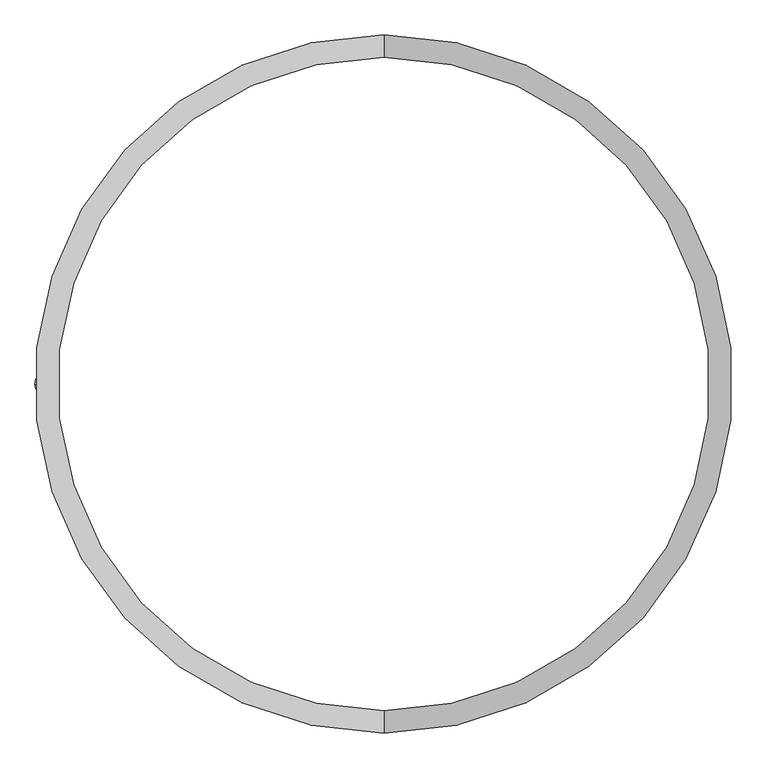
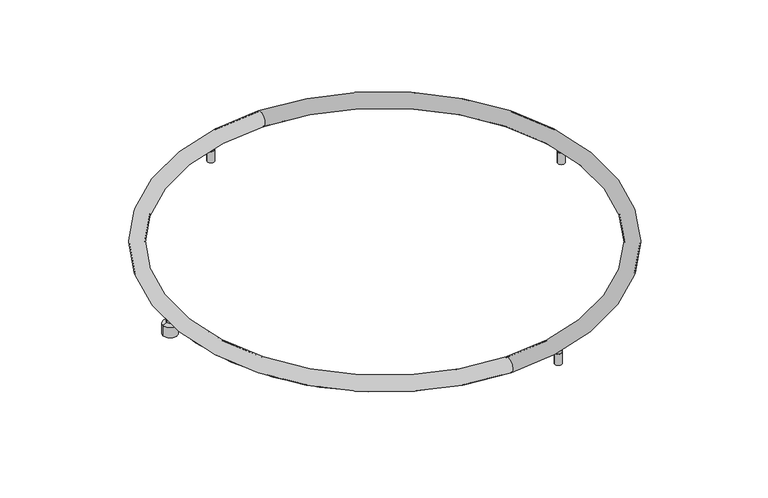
"""IFC4 building model written with IfcOpenShell, lengths in millimetres: light fixture geometry, ARTEMIDE-AoL-StandAlone-Circular_WallCeiling : StandALone_SemiRecessed_Circular-1550mm 10740lm 3000K."""

from ifc_helpers import new_model, si_unit, point, frame, origin, place, context, project, spatial, polyline, circle_curve, ellipse_curve, trimmed, source, transform, mapped, element, save
from ifc_brep_helpers import plane_surface, cylinder_surface, revolved_surface, advanced_brep


def light_fixture_1c0528ef(model_context):
    return source(origin(), model_context, "Body", "AdvancedBrep", [
        advanced_brep(
        [(0.0, 0.0, 54.0), (12.0, 0.0, 54.0), (-12.0, 0.0, 54.0), (-25.0, 0.0, 0.0), (25.0, 0.0, 0.0), (0.0, 0.0, 0.0), (-25.0, 0.0, 37.5120373), (25.0, 0.0, 37.5120373), (-12.0, 0.0, 44.4453706), (12.0, 0.0, 44.4453706)],
        [
            (0, 1),
            (1, 2, circle_curve(frame((0.0, 0.0, 54.0), z_axis=(0.0, 0.0, 1.0), x_axis=(1.0, 0.0, 0.0)), 12.0)),
            (2, 0),
            (2, 1, circle_curve(frame((0.0, 0.0, 54.0), z_axis=(0.0, 0.0, 1.0), x_axis=(1.0, 0.0, 0.0)), 12.0)),
            (3, 4, circle_curve(frame((0.0, 0.0, 0.0), z_axis=(0.0, 0.0, -1.0), x_axis=(1.0, 0.0, 0.0)), 25.0)),
            (4, 5),
            (5, 3),
            (4, 3, circle_curve(frame((0.0, 0.0, 0.0), z_axis=(0.0, 0.0, -1.0), x_axis=(1.0, 0.0, 0.0)), 25.0)),
            (6, 7, circle_curve(frame((0.0, 0.0, 37.5120373), z_axis=(0.0, 0.0, -1.0), x_axis=(1.0, 0.0, 0.0)), 25.0)),
            (7, 4),
            (3, 6),
            (7, 6, circle_curve(frame((0.0, 0.0, 37.5120373), z_axis=(0.0, 0.0, -1.0), x_axis=(1.0, 0.0, 0.0)), 25.0)),
            (8, 9, circle_curve(frame((0.0, 0.0, 44.4453706), z_axis=(0.0, 0.0, -1.0), x_axis=(1.0, 0.0, 0.0)), 12.0)),
            (9, 7),
            (6, 8),
            (9, 8, circle_curve(frame((0.0, 0.0, 44.4453706), z_axis=(0.0, 0.0, -1.0), x_axis=(1.0, 0.0, 0.0)), 12.0)),
            (1, 9),
            (8, 2),
        ],
        [
            plane_surface(frame((0.0, 0.0, 54.0), z_axis=(0.0, 0.0, 1.0), x_axis=(1.0, 0.0, 0.0))),
            plane_surface(frame((0.0, 0.0, 0.0), z_axis=(0.0, 0.0, -1.0), x_axis=(1.0, 0.0, 0.0))),
            cylinder_surface(frame((0.0, 0.0, -58.83358), z_axis=(0.0, 0.0, 1.0), x_axis=(1.0, 0.0, 0.0)), 25.0),
            revolved_surface(polyline([(25.0, 0.0, 37.5120373), (12.0, 0.0, 44.4453706)]), (0.0, 0.0, -58.83358), (0.0, 0.0, 1.0)),
            cylinder_surface(frame((0.0, 0.0, -58.83358), z_axis=(0.0, 0.0, 1.0), x_axis=(1.0, 0.0, 0.0)), 12.0),
        ],
        [
            (0, [[1, 2, 3]]),
            (0, [[-3, 4, -1]]),
            (1, [[5, 6, 7]]),
            (1, [[8, -7, -6]]),
            (2, [[9, 10, -5, 11]]),
            (2, [[12, -11, -8, -10]]),
            (3, [[13, 14, -9, 15]]),
            (3, [[16, -15, -12, -14]]),
            (4, [[-2, 17, -13, 18]]),
            (4, [[-4, -18, -16, -17]]),
        ],
    ),
        advanced_brep(
        [(1481.5, 188.0, 0.0), (1470.5, 188.0, 0.0), (1476.0, 188.0, 0.0), (1481.5, 188.0, 1.0), (1470.5, 188.0, 1.0), (1488.0, 188.0, 1.0), (1464.0, 188.0, 1.0), (1488.0, 188.0, 42.5), (1464.0, 188.0, 42.5), (1485.5243756, 188.0, 42.5), (1466.4756244, 188.0, 42.5), (1485.5243756, 188.0, 43.4995055), (1466.4756244, 188.0, 43.4995055), (1488.0, 188.0, 43.4995055), (1464.0, 188.0, 43.4995055), (1488.0, 188.0, 52.9579379), (1464.0, 188.0, 52.9579379), (1476.0, 188.0, 52.9579379)],
        [
            (0, 1, circle_curve(frame((1476.0, 188.0, 0.0), z_axis=(0.0, 0.0, -1.0), x_axis=(-1.0, 0.0, 0.0)), 5.5)),
            (1, 2),
            (2, 0),
            (1, 0, circle_curve(frame((1476.0, 188.0, 0.0), z_axis=(0.0, 0.0, -1.0), x_axis=(-1.0, 0.0, 0.0)), 5.5)),
            (3, 4, circle_curve(frame((1476.0, 188.0, 1.0), z_axis=(0.0, 0.0, -1.0), x_axis=(-1.0, 0.0, 0.0)), 5.5)),
            (4, 1),
            (0, 3),
            (4, 3, circle_curve(frame((1476.0, 188.0, 1.0), z_axis=(0.0, 0.0, -1.0), x_axis=(-1.0, 0.0, 0.0)), 5.5)),
            (5, 6, circle_curve(frame((1476.0, 188.0, 1.0), z_axis=(0.0, 0.0, -1.0), x_axis=(-1.0, 0.0, 0.0)), 12.0)),
            (6, 4),
            (3, 5),
            (6, 5, circle_curve(frame((1476.0, 188.0, 1.0), z_axis=(0.0, 0.0, -1.0), x_axis=(-1.0, 0.0, 0.0)), 12.0)),
            (7, 8, circle_curve(frame((1476.0, 188.0, 42.5), z_axis=(0.0, 0.0, -1.0), x_axis=(-1.0, 0.0, 0.0)), 12.0)),
            (8, 6),
            (5, 7),
            (8, 7, circle_curve(frame((1476.0, 188.0, 42.5), z_axis=(0.0, 0.0, -1.0), x_axis=(-1.0, 0.0, 0.0)), 12.0)),
            (9, 10, circle_curve(frame((1476.0, 188.0, 42.5), z_axis=(0.0, 0.0, -1.0), x_axis=(-1.0, 0.0, 0.0)), 9.5243756)),
            (10, 8),
            (7, 9),
            (10, 9, circle_curve(frame((1476.0, 188.0, 42.5), z_axis=(0.0, 0.0, -1.0), x_axis=(-1.0, 0.0, 0.0)), 9.5243756)),
            (11, 12, circle_curve(frame((1476.0, 188.0, 43.4995055), z_axis=(0.0, 0.0, -1.0), x_axis=(-1.0, 0.0, 0.0)), 9.5243756)),
            (12, 10),
            (9, 11),
            (12, 11, circle_curve(frame((1476.0, 188.0, 43.4995055), z_axis=(0.0, 0.0, -1.0), x_axis=(-1.0, 0.0, 0.0)), 9.5243756)),
            (13, 14, circle_curve(frame((1476.0, 188.0, 43.4995055), z_axis=(0.0, 0.0, -1.0), x_axis=(-1.0, 0.0, 0.0)), 12.0)),
            (14, 12),
            (11, 13),
            (14, 13, circle_curve(frame((1476.0, 188.0, 43.4995055), z_axis=(0.0, 0.0, -1.0), x_axis=(-1.0, 0.0, 0.0)), 12.0)),
            (15, 16, circle_curve(frame((1476.0, 188.0, 52.9579379), z_axis=(0.0, 0.0, -1.0), x_axis=(-1.0, 0.0, 0.0)), 12.0)),
            (16, 14),
            (13, 15),
            (16, 15, circle_curve(frame((1476.0, 188.0, 52.9579379), z_axis=(0.0, 0.0, -1.0), x_axis=(-1.0, 0.0, 0.0)), 12.0)),
            (17, 16),
            (15, 17),
        ],
        [
            plane_surface(frame((1476.0, 188.0, 0.0), z_axis=(0.0, 0.0, -1.0), x_axis=(-1.0, 0.0, 0.0))),
            cylinder_surface(frame((1476.0, 188.0, -58.83358), z_axis=(0.0, 0.0, 1.0), x_axis=(-1.0, 0.0, 0.0)), 5.5),
            plane_surface(frame((1476.0, 188.0, 1.0), z_axis=(0.0, 0.0, -1.0), x_axis=(-1.0, 0.0, 0.0))),
            cylinder_surface(frame((1476.0, 188.0, -58.83358), z_axis=(0.0, 0.0, 1.0), x_axis=(-1.0, 0.0, 0.0)), 12.0),
            plane_surface(frame((1476.0, 188.0, 42.5), z_axis=(0.0, 0.0, 1.0), x_axis=(-1.0, 0.0, 0.0))),
            cylinder_surface(frame((1476.0, 188.0, -58.83358), z_axis=(0.0, 0.0, 1.0), x_axis=(-1.0, 0.0, 0.0)), 9.5243756),
            plane_surface(frame((1476.0, 188.0, 43.4995055), z_axis=(0.0, 0.0, -1.0), x_axis=(-1.0, 0.0, 0.0))),
            plane_surface(frame((1476.0, 188.0, 52.9579379), z_axis=(0.0, 0.0, 1.0), x_axis=(-1.0, 0.0, 0.0))),
        ],
        [
            (0, [[1, 2, 3]]),
            (0, [[4, -3, -2]]),
            (1, [[5, 6, -1, 7]]),
            (1, [[8, -7, -4, -6]]),
            (2, [[9, 10, -5, 11]]),
            (2, [[12, -11, -8, -10]]),
            (3, [[13, 14, -9, 15]]),
            (3, [[16, -15, -12, -14]]),
            (4, [[17, 18, -13, 19]]),
            (4, [[20, -19, -16, -18]]),
            (5, [[21, 22, -17, 23]]),
            (5, [[24, -23, -20, -22]]),
            (6, [[25, 26, -21, 27]]),
            (6, [[28, -27, -24, -26]]),
            (3, [[29, 30, -25, 31]]),
            (3, [[32, -31, -28, -30]]),
            (7, [[33, -29, 34]]),
            (7, [[-34, -32, -33]]),
        ],
    ),
        advanced_brep(
        [(567.5, 726.0, 0.0), (556.5, 726.0, 0.0), (562.0, 726.0, 0.0), (567.5, 726.0, 1.0), (556.5, 726.0, 1.0), (574.0, 726.0, 1.0), (550.0, 726.0, 1.0), (574.0, 726.0, 42.5), (550.0, 726.0, 42.5), (571.5243756, 726.0, 42.5), (552.4756244, 726.0, 42.5), (571.5243756, 726.0, 43.4995055), (552.4756244, 726.0, 43.4995055), (574.0, 726.0, 43.4995055), (550.0, 726.0, 43.4995055), (574.0, 726.0, 52.9579379), (550.0, 726.0, 52.9579379), (562.0, 726.0, 52.9579379)],
        [
            (0, 1, circle_curve(frame((562.0, 726.0, 0.0), z_axis=(0.0, 0.0, -1.0), x_axis=(-1.0, 0.0, 0.0)), 5.5)),
            (1, 2),
            (2, 0),
            (1, 0, circle_curve(frame((562.0, 726.0, 0.0), z_axis=(0.0, 0.0, -1.0), x_axis=(-1.0, 0.0, 0.0)), 5.5)),
            (3, 4, circle_curve(frame((562.0, 726.0, 1.0), z_axis=(0.0, 0.0, -1.0), x_axis=(-1.0, 0.0, 0.0)), 5.5)),
            (4, 1),
            (0, 3),
            (4, 3, circle_curve(frame((562.0, 726.0, 1.0), z_axis=(0.0, 0.0, -1.0), x_axis=(-1.0, 0.0, 0.0)), 5.5)),
            (5, 6, circle_curve(frame((562.0, 726.0, 1.0), z_axis=(0.0, 0.0, -1.0), x_axis=(-1.0, 0.0, 0.0)), 12.0)),
            (6, 4),
            (3, 5),
            (6, 5, circle_curve(frame((562.0, 726.0, 1.0), z_axis=(0.0, 0.0, -1.0), x_axis=(-1.0, 0.0, 0.0)), 12.0)),
            (7, 8, circle_curve(frame((562.0, 726.0, 42.5), z_axis=(0.0, 0.0, -1.0), x_axis=(-1.0, 0.0, 0.0)), 12.0)),
            (8, 6),
            (5, 7),
            (8, 7, circle_curve(frame((562.0, 726.0, 42.5), z_axis=(0.0, 0.0, -1.0), x_axis=(-1.0, 0.0, 0.0)), 12.0)),
            (9, 10, circle_curve(frame((562.0, 726.0, 42.5), z_axis=(0.0, 0.0, -1.0), x_axis=(-1.0, 0.0, 0.0)), 9.5243756)),
            (10, 8),
            (7, 9),
            (10, 9, circle_curve(frame((562.0, 726.0, 42.5), z_axis=(0.0, 0.0, -1.0), x_axis=(-1.0, 0.0, 0.0)), 9.5243756)),
            (11, 12, circle_curve(frame((562.0, 726.0, 43.4995055), z_axis=(0.0, 0.0, -1.0), x_axis=(-1.0, 0.0, 0.0)), 9.5243756)),
            (12, 10),
            (9, 11),
            (12, 11, circle_curve(frame((562.0, 726.0, 43.4995055), z_axis=(0.0, 0.0, -1.0), x_axis=(-1.0, 0.0, 0.0)), 9.5243756)),
            (13, 14, circle_curve(frame((562.0, 726.0, 43.4995055), z_axis=(0.0, 0.0, -1.0), x_axis=(-1.0, 0.0, 0.0)), 12.0)),
            (14, 12),
            (11, 13),
            (14, 13, circle_curve(frame((562.0, 726.0, 43.4995055), z_axis=(0.0, 0.0, -1.0), x_axis=(-1.0, 0.0, 0.0)), 12.0)),
            (15, 16, circle_curve(frame((562.0, 726.0, 52.9579379), z_axis=(0.0, 0.0, -1.0), x_axis=(-1.0, 0.0, 0.0)), 12.0)),
            (16, 14),
            (13, 15),
            (16, 15, circle_curve(frame((562.0, 726.0, 52.9579379), z_axis=(0.0, 0.0, -1.0), x_axis=(-1.0, 0.0, 0.0)), 12.0)),
            (17, 16),
            (15, 17),
        ],
        [
            plane_surface(frame((562.0, 726.0, 0.0), z_axis=(0.0, 0.0, -1.0), x_axis=(-1.0, 0.0, 0.0))),
            cylinder_surface(frame((562.0, 726.0, -58.83358), z_axis=(0.0, 0.0, 1.0), x_axis=(-1.0, 0.0, 0.0)), 5.5),
            plane_surface(frame((562.0, 726.0, 1.0), z_axis=(0.0, 0.0, -1.0), x_axis=(-1.0, 0.0, 0.0))),
            cylinder_surface(frame((562.0, 726.0, -58.83358), z_axis=(0.0, 0.0, 1.0), x_axis=(-1.0, 0.0, 0.0)), 12.0),
            plane_surface(frame((562.0, 726.0, 42.5), z_axis=(0.0, 0.0, 1.0), x_axis=(-1.0, 0.0, 0.0))),
            cylinder_surface(frame((562.0, 726.0, -58.83358), z_axis=(0.0, 0.0, 1.0), x_axis=(-1.0, 0.0, 0.0)), 9.5243756),
            plane_surface(frame((562.0, 726.0, 43.4995055), z_axis=(0.0, 0.0, -1.0), x_axis=(-1.0, 0.0, 0.0))),
            plane_surface(frame((562.0, 726.0, 52.9579379), z_axis=(0.0, 0.0, 1.0), x_axis=(-1.0, 0.0, 0.0))),
        ],
        [
            (0, [[1, 2, 3]]),
            (0, [[4, -3, -2]]),
            (1, [[5, 6, -1, 7]]),
            (1, [[8, -7, -4, -6]]),
            (2, [[9, 10, -5, 11]]),
            (2, [[12, -11, -8, -10]]),
            (3, [[13, 14, -9, 15]]),
            (3, [[16, -15, -12, -14]]),
            (4, [[17, 18, -13, 19]]),
            (4, [[20, -19, -16, -18]]),
            (5, [[21, 22, -17, 23]]),
            (5, [[24, -23, -20, -22]]),
            (6, [[25, 26, -21, 27]]),
            (6, [[28, -27, -24, -26]]),
            (3, [[29, 30, -25, 31]]),
            (3, [[32, -31, -28, -30]]),
            (7, [[33, -29, 34]]),
            (7, [[-34, -32, -33]]),
        ],
    ),
        advanced_brep(
        [(943.5, -726.0, 0.0), (932.5, -726.0, 0.0), (938.0, -726.0, 0.0), (943.5, -726.0, 1.0), (932.5, -726.0, 1.0), (950.0, -726.0, 1.0), (926.0, -726.0, 1.0), (950.0, -726.0, 42.5), (926.0, -726.0, 42.5), (947.5243756, -726.0, 42.5), (928.4756244, -726.0, 42.5), (947.5243756, -726.0, 43.4995055), (928.4756244, -726.0, 43.4995055), (950.0, -726.0, 43.4995055), (926.0, -726.0, 43.4995055), (950.0, -726.0, 52.9579379), (926.0, -726.0, 52.9579379), (938.0, -726.0, 52.9579379)],
        [
            (0, 1, circle_curve(frame((938.0, -726.0, 0.0), z_axis=(0.0, 0.0, -1.0), x_axis=(-1.0, 0.0, 0.0)), 5.5)),
            (1, 2),
            (2, 0),
            (1, 0, circle_curve(frame((938.0, -726.0, 0.0), z_axis=(0.0, 0.0, -1.0), x_axis=(-1.0, 0.0, 0.0)), 5.5)),
            (3, 4, circle_curve(frame((938.0, -726.0, 1.0), z_axis=(0.0, 0.0, -1.0), x_axis=(-1.0, 0.0, 0.0)), 5.5)),
            (4, 1),
            (0, 3),
            (4, 3, circle_curve(frame((938.0, -726.0, 1.0), z_axis=(0.0, 0.0, -1.0), x_axis=(-1.0, 0.0, 0.0)), 5.5)),
            (5, 6, circle_curve(frame((938.0, -726.0, 1.0), z_axis=(0.0, 0.0, -1.0), x_axis=(-1.0, 0.0, 0.0)), 12.0)),
            (6, 4),
            (3, 5),
            (6, 5, circle_curve(frame((938.0, -726.0, 1.0), z_axis=(0.0, 0.0, -1.0), x_axis=(-1.0, 0.0, 0.0)), 12.0)),
            (7, 8, circle_curve(frame((938.0, -726.0, 42.5), z_axis=(0.0, 0.0, -1.0), x_axis=(-1.0, 0.0, 0.0)), 12.0)),
            (8, 6),
            (5, 7),
            (8, 7, circle_curve(frame((938.0, -726.0, 42.5), z_axis=(0.0, 0.0, -1.0), x_axis=(-1.0, 0.0, 0.0)), 12.0)),
            (9, 10, circle_curve(frame((938.0, -726.0, 42.5), z_axis=(0.0, 0.0, -1.0), x_axis=(-1.0, 0.0, 0.0)), 9.5243756)),
            (10, 8),
            (7, 9),
            (10, 9, circle_curve(frame((938.0, -726.0, 42.5), z_axis=(0.0, 0.0, -1.0), x_axis=(-1.0, 0.0, 0.0)), 9.5243756)),
            (11, 12, circle_curve(frame((938.0, -726.0, 43.4995055), z_axis=(0.0, 0.0, -1.0), x_axis=(-1.0, 0.0, 0.0)), 9.5243756)),
            (12, 10),
            (9, 11),
            (12, 11, circle_curve(frame((938.0, -726.0, 43.4995055), z_axis=(0.0, 0.0, -1.0), x_axis=(-1.0, 0.0, 0.0)), 9.5243756)),
            (13, 14, circle_curve(frame((938.0, -726.0, 43.4995055), z_axis=(0.0, 0.0, -1.0), x_axis=(-1.0, 0.0, 0.0)), 12.0)),
            (14, 12),
            (11, 13),
            (14, 13, circle_curve(frame((938.0, -726.0, 43.4995055), z_axis=(0.0, 0.0, -1.0), x_axis=(-1.0, 0.0, 0.0)), 12.0)),
            (15, 16, circle_curve(frame((938.0, -726.0, 52.9579379), z_axis=(0.0, 0.0, -1.0), x_axis=(-1.0, 0.0, 0.0)), 12.0)),
            (16, 14),
            (13, 15),
            (16, 15, circle_curve(frame((938.0, -726.0, 52.9579379), z_axis=(0.0, 0.0, -1.0), x_axis=(-1.0, 0.0, 0.0)), 12.0)),
            (17, 16),
            (15, 17),
        ],
        [
            plane_surface(frame((938.0, -726.0, 0.0), z_axis=(0.0, 0.0, -1.0), x_axis=(-1.0, 0.0, 0.0))),
            cylinder_surface(frame((938.0, -726.0, -58.83358), z_axis=(0.0, 0.0, 1.0), x_axis=(-1.0, 0.0, 0.0)), 5.5),
            plane_surface(frame((938.0, -726.0, 1.0), z_axis=(0.0, 0.0, -1.0), x_axis=(-1.0, 0.0, 0.0))),
            cylinder_surface(frame((938.0, -726.0, -58.83358), z_axis=(0.0, 0.0, 1.0), x_axis=(-1.0, 0.0, 0.0)), 12.0),
            plane_surface(frame((938.0, -726.0, 42.5), z_axis=(0.0, 0.0, 1.0), x_axis=(-1.0, 0.0, 0.0))),
            cylinder_surface(frame((938.0, -726.0, -58.83358), z_axis=(0.0, 0.0, 1.0), x_axis=(-1.0, 0.0, 0.0)), 9.5243756),
            plane_surface(frame((938.0, -726.0, 43.4995055), z_axis=(0.0, 0.0, -1.0), x_axis=(-1.0, 0.0, 0.0))),
            plane_surface(frame((938.0, -726.0, 52.9579379), z_axis=(0.0, 0.0, 1.0), x_axis=(-1.0, 0.0, 0.0))),
        ],
        [
            (0, [[1, 2, 3]]),
            (0, [[4, -3, -2]]),
            (1, [[5, 6, -1, 7]]),
            (1, [[8, -7, -4, -6]]),
            (2, [[9, 10, -5, 11]]),
            (2, [[12, -11, -8, -10]]),
            (3, [[13, 14, -9, 15]]),
            (3, [[16, -15, -12, -14]]),
            (4, [[17, 18, -13, 19]]),
            (4, [[20, -19, -16, -18]]),
            (5, [[21, 22, -17, 23]]),
            (5, [[24, -23, -20, -22]]),
            (6, [[25, 26, -21, 27]]),
            (6, [[28, -27, -24, -26]]),
            (3, [[29, 30, -25, 31]]),
            (3, [[32, -31, -28, -30]]),
            (7, [[33, -29, 34]]),
            (7, [[-34, -32, -33]]),
        ],
    ),
        advanced_brep(
        [(750.3445739, -738.1969999, 52.9151372), (750.3445739, 738.3030001, 52.9151372), (750.3445739, 761.8030001, 52.9151372), (750.3445739, -761.6969999, 52.9151372), (750.3445739, -738.1969999, 57.2410096), (750.3445739, 738.3030001, 57.2410096), (750.3445739, -736.2792459, 55.8106819), (750.3445739, 736.3852461, 55.8106819), (750.3445739, 736.3852461, 57.2410096), (750.3445739, -736.2792459, 57.2410096), (750.3445739, -734.3292459, 57.2258724), (750.3445739, 734.4352461, 57.2258724), (750.3445739, -734.3292459, 59.2258716), (750.3445739, 734.4352461, 59.2258716), (750.3445739, -737.2792459, 60.7258716), (750.3445739, 737.3852461, 60.7258716), (750.3445739, 737.3852461, 59.2258716), (750.3445739, -737.2792459, 59.2258716), (750.3445739, -767.2249794, 60.7258716), (750.3445739, 767.3309795, 60.7258716), (750.3445739, 732.7750206, 60.7258716), (750.3445739, -732.6690205, 60.7258716), (750.3445739, -762.6147539, 59.2258716), (750.3445739, 762.7207541, 59.2258716), (750.3445739, 762.7207541, 60.7258716), (750.3445739, -762.6147539, 60.7258716), (750.3445739, -765.5647539, 57.2258724), (750.3445739, 765.6707541, 57.2258724), (750.3445739, 765.6707541, 59.2258716), (750.3445739, -765.5647539, 59.2258716), (750.3445739, -763.6147539, 55.8106819), (750.3445739, 763.7207541, 55.8106819), (750.3445739, -763.6147539, 57.2410096), (750.3445739, 763.7207541, 57.2410096), (750.3445739, 761.8030001, 57.2410096), (750.3445739, -761.6969999, 57.2410096)],
        [
            (0, 1, circle_curve(frame((750.3445739, 0.0530001, 52.9151372), z_axis=(0.0, 0.0, -1.0), x_axis=(0.0, 1.0, 0.0)), 738.25)),
            (1, 2, circle_curve(frame((750.3445739, 750.0530001, 74.9817976), z_axis=(-1.0, 0.0, 0.0), x_axis=(0.0, -1.0, 0.0)), 25.0)),
            (2, 3, circle_curve(frame((750.3445739, 0.0530001, 52.9151372), z_axis=(0.0, 0.0, 1.0), x_axis=(0.0, 1.0, 0.0)), 761.75)),
            (3, 0, circle_curve(frame((750.3445739, -749.9469999, 74.9817976), z_axis=(-1.0, 0.0, 0.0), x_axis=(0.0, 1.0, 0.0)), 25.0)),
            (4, 5, circle_curve(frame((750.3445739, 0.0530001, 57.2410096), z_axis=(0.0, 0.0, -1.0), x_axis=(0.0, 1.0, 0.0)), 738.25)),
            (5, 1),
            (0, 4),
            (6, 7, circle_curve(frame((750.3445739, 0.0530001, 55.8106819), z_axis=(0.0, 0.0, -1.0), x_axis=(0.0, 1.0, 0.0)), 736.332246)),
            (7, 8),
            (8, 9, circle_curve(frame((750.3445739, 0.0530001, 57.2410096), z_axis=(0.0, 0.0, 1.0), x_axis=(0.0, 1.0, 0.0)), 736.332246)),
            (9, 6),
            (10, 11, circle_curve(frame((750.3445739, 0.0530001, 57.2258724), z_axis=(0.0, 0.0, -1.0), x_axis=(0.0, 1.0, 0.0)), 734.382246)),
            (11, 7),
            (6, 10),
            (12, 13, circle_curve(frame((750.3445739, 0.0530001, 59.2258716), z_axis=(0.0, 0.0, -1.0), x_axis=(0.0, 1.0, 0.0)), 734.382246)),
            (13, 11),
            (10, 12),
            (14, 15, circle_curve(frame((750.3445739, 0.0530001, 60.7258716), z_axis=(0.0, 0.0, -1.0), x_axis=(0.0, 1.0, 0.0)), 737.332246)),
            (15, 16),
            (16, 17, circle_curve(frame((750.3445739, 0.0530001, 59.2258716), z_axis=(0.0, 0.0, 1.0), x_axis=(0.0, 1.0, 0.0)), 737.332246)),
            (17, 14),
            (18, 19, circle_curve(frame((750.3445739, 0.0530001, 60.7258716), z_axis=(0.0, 0.0, -1.0), x_axis=(0.0, 1.0, 0.0)), 767.2779794)),
            (19, 20, circle_curve(frame((750.3445739, 750.0530001, 74.9817976), z_axis=(1.0, 0.0, 0.0), x_axis=(0.0, -1.0, 0.0)), 22.4)),
            (20, 21, circle_curve(frame((750.3445739, 0.0530001, 60.7258716), z_axis=(0.0, 0.0, 1.0), x_axis=(0.0, 1.0, 0.0)), 732.7220206)),
            (21, 18, circle_curve(frame((750.3445739, -749.9469999, 74.9817976), z_axis=(1.0, 0.0, 0.0), x_axis=(0.0, 1.0, 0.0)), 22.4)),
            (22, 23, circle_curve(frame((750.3445739, 0.0530001, 59.2258716), z_axis=(0.0, 0.0, -1.0), x_axis=(0.0, 1.0, 0.0)), 762.667754)),
            (23, 24),
            (24, 25, circle_curve(frame((750.3445739, 0.0530001, 60.7258716), z_axis=(0.0, 0.0, 1.0), x_axis=(0.0, 1.0, 0.0)), 762.667754)),
            (25, 22),
            (26, 27, circle_curve(frame((750.3445739, 0.0530001, 57.2258724), z_axis=(0.0, 0.0, -1.0), x_axis=(0.0, 1.0, 0.0)), 765.617754)),
            (27, 28),
            (28, 29, circle_curve(frame((750.3445739, 0.0530001, 59.2258716), z_axis=(0.0, 0.0, 1.0), x_axis=(0.0, 1.0, 0.0)), 765.617754)),
            (29, 26),
            (30, 31, circle_curve(frame((750.3445739, 0.0530001, 55.8106819), z_axis=(0.0, 0.0, -1.0), x_axis=(0.0, 1.0, 0.0)), 763.667754)),
            (31, 27),
            (26, 30),
            (32, 33, circle_curve(frame((750.3445739, 0.0530001, 57.2410096), z_axis=(0.0, 0.0, -1.0), x_axis=(0.0, 1.0, 0.0)), 763.667754)),
            (33, 31),
            (30, 32),
            (2, 34),
            (34, 35, circle_curve(frame((750.3445739, 0.0530001, 57.2410096), z_axis=(0.0, 0.0, 1.0), x_axis=(0.0, 1.0, 0.0)), 761.75)),
            (35, 3),
            (1, 0, circle_curve(frame((750.3445739, 0.0530001, 52.9151372), z_axis=(0.0, 0.0, -1.0), x_axis=(0.0, -1.0, 0.0)), 738.25)),
            (3, 2, circle_curve(frame((750.3445739, 0.0530001, 52.9151372), z_axis=(0.0, 0.0, 1.0), x_axis=(0.0, -1.0, 0.0)), 761.75)),
            (5, 4, circle_curve(frame((750.3445739, 0.0530001, 57.2410096), z_axis=(0.0, 0.0, -1.0), x_axis=(0.0, -1.0, 0.0)), 738.25)),
            (8, 9, circle_curve(frame((750.3445739, 0.0530001, 57.2410096), z_axis=(0.0, 0.0, -1.0), x_axis=(0.0, -1.0, 0.0)), 736.332246)),
            (7, 6, circle_curve(frame((750.3445739, 0.0530001, 55.8106819), z_axis=(0.0, 0.0, -1.0), x_axis=(0.0, -1.0, 0.0)), 736.332246)),
            (11, 10, circle_curve(frame((750.3445739, 0.0530001, 57.2258724), z_axis=(0.0, 0.0, -1.0), x_axis=(0.0, -1.0, 0.0)), 734.382246)),
            (13, 12, circle_curve(frame((750.3445739, 0.0530001, 59.2258716), z_axis=(0.0, 0.0, -1.0), x_axis=(0.0, -1.0, 0.0)), 734.382246)),
            (16, 17, circle_curve(frame((750.3445739, 0.0530001, 59.2258716), z_axis=(0.0, 0.0, -1.0), x_axis=(0.0, -1.0, 0.0)), 737.332246)),
            (15, 14, circle_curve(frame((750.3445739, 0.0530001, 60.7258716), z_axis=(0.0, 0.0, -1.0), x_axis=(0.0, -1.0, 0.0)), 737.332246)),
            (20, 21, circle_curve(frame((750.3445739, 0.0530001, 60.7258716), z_axis=(0.0, 0.0, -1.0), x_axis=(0.0, -1.0, 0.0)), 732.7220206)),
            (19, 18, circle_curve(frame((750.3445739, 0.0530001, 60.7258716), z_axis=(0.0, 0.0, -1.0), x_axis=(0.0, -1.0, 0.0)), 767.2779794)),
            (24, 25, circle_curve(frame((750.3445739, 0.0530001, 60.7258716), z_axis=(0.0, 0.0, -1.0), x_axis=(0.0, -1.0, 0.0)), 762.667754)),
            (23, 22, circle_curve(frame((750.3445739, 0.0530001, 59.2258716), z_axis=(0.0, 0.0, -1.0), x_axis=(0.0, -1.0, 0.0)), 762.667754)),
            (28, 29, circle_curve(frame((750.3445739, 0.0530001, 59.2258716), z_axis=(0.0, 0.0, -1.0), x_axis=(0.0, -1.0, 0.0)), 765.617754)),
            (27, 26, circle_curve(frame((750.3445739, 0.0530001, 57.2258724), z_axis=(0.0, 0.0, -1.0), x_axis=(0.0, -1.0, 0.0)), 765.617754)),
            (31, 30, circle_curve(frame((750.3445739, 0.0530001, 55.8106819), z_axis=(0.0, 0.0, -1.0), x_axis=(0.0, -1.0, 0.0)), 763.667754)),
            (33, 32, circle_curve(frame((750.3445739, 0.0530001, 57.2410096), z_axis=(0.0, 0.0, -1.0), x_axis=(0.0, -1.0, 0.0)), 763.667754)),
            (34, 35, circle_curve(frame((750.3445739, 0.0530001, 57.2410096), z_axis=(0.0, 0.0, -1.0), x_axis=(0.0, -1.0, 0.0)), 761.75)),
        ],
        [
            revolved_surface(trimmed(ellipse_curve(frame((750.3445739, 750.0530001, 74.9817976), z_axis=(1.0, 0.0, 0.0), x_axis=(0.0, -1.0, 0.0)), 25.0, 25.0), [point((750.3445739, 761.8030001, 52.9151372))], [point((750.3445739, 738.3030001, 52.9151372))], True, "CARTESIAN"), (750.3445739, 0.0530001, 50.0), (0.0, 0.0, 1.0)),
            cylinder_surface(frame((750.3445739, 0.0530001, 50.0), z_axis=(0.0, 0.0, 1.0), x_axis=(0.0, 1.0, 0.0)), 738.25),
            revolved_surface(polyline([(750.3445739, 736.3852461, 57.2410096), (750.3445739, 736.3852461, 55.8106819)]), (750.3445739, 0.0530001, 50.0), (0.0, 0.0, 1.0)),
            revolved_surface(polyline([(750.3445739, 736.3852461, 55.8106819), (750.3445739, 734.4352461, 57.2258724)]), (750.3445739, 0.0530001, 50.0), (0.0, 0.0, 1.0)),
            cylinder_surface(frame((750.3445739, 0.0530001, 50.0), z_axis=(0.0, 0.0, 1.0), x_axis=(0.0, 1.0, 0.0)), 734.382246),
            cylinder_surface(frame((750.3445739, 0.0530001, 50.0), z_axis=(0.0, 0.0, 1.0), x_axis=(0.0, 1.0, 0.0)), 737.332246),
            revolved_surface(trimmed(ellipse_curve(frame((750.3445739, 750.0530001, 74.9817976), z_axis=(-1.0, 0.0, 0.0), x_axis=(0.0, -1.0, 0.0)), 22.4, 22.4), [point((750.3445739, 732.7750206, 60.7258716))], [point((750.3445739, 767.3309795, 60.7258716))], True, "CARTESIAN"), (750.3445739, 0.0530001, 50.0), (0.0, 0.0, 1.0)),
            revolved_surface(polyline([(750.3445739, 762.7207540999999, 60.7258716), (750.3445739, 762.7207540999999, 59.2258716)]), (750.3445739, 0.0530001, 50.0), (0.0, 0.0, 1.0)),
            revolved_surface(polyline([(750.3445739, 765.6707541, 59.2258716), (750.3445739, 765.6707541, 57.2258724)]), (750.3445739, 0.0530001, 50.0), (0.0, 0.0, 1.0)),
            revolved_surface(polyline([(750.3445739, 765.6707541, 57.2258724), (750.3445739, 763.7207541, 55.8106819)]), (750.3445739, 0.0530001, 50.0), (0.0, 0.0, 1.0)),
            cylinder_surface(frame((750.3445739, 0.0530001, 50.0), z_axis=(0.0, 0.0, 1.0), x_axis=(0.0, 1.0, 0.0)), 763.667754),
            revolved_surface(polyline([(750.3445739, 761.8030001, 57.2410096), (750.3445739, 761.8030001, 52.9151372)]), (750.3445739, 0.0530001, 50.0), (0.0, 0.0, 1.0)),
            revolved_surface(trimmed(ellipse_curve(frame((750.3445739, -749.9469999, 74.9817976), z_axis=(-1.0, 0.0, 0.0), x_axis=(0.0, 1.0, 0.0)), 25.0, 25.0), [point((750.3445739, -761.6969999, 52.9151372))], [point((750.3445739, -738.1969999, 52.9151372))], True, "CARTESIAN"), (750.3445739, 0.0530001, 50.0), (0.0, 0.0, 1.0)),
            cylinder_surface(frame((750.3445739, 0.0530001, 50.0), z_axis=(0.0, 0.0, 1.0), x_axis=(0.0, -1.0, 0.0)), 738.25),
            plane_surface(frame((750.3445739, 0.0530001, 57.2410096), z_axis=(0.0, 0.0, 1.0), x_axis=(0.0, -1.0, 0.0))),
            revolved_surface(polyline([(750.3445739, -736.2792459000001, 57.2410096), (750.3445739, -736.2792459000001, 55.8106819)]), (750.3445739, 0.0530001, 50.0), (0.0, 0.0, 1.0)),
            revolved_surface(polyline([(750.3445739, -736.2792459, 55.8106819), (750.3445739, -734.3292459, 57.2258724)]), (750.3445739, 0.0530001, 50.0), (0.0, 0.0, 1.0)),
            cylinder_surface(frame((750.3445739, 0.0530001, 50.0), z_axis=(0.0, 0.0, 1.0), x_axis=(0.0, -1.0, 0.0)), 734.382246),
            plane_surface(frame((750.3445739, 0.0530001, 59.2258716), z_axis=(0.0, 0.0, -1.0), x_axis=(0.0, -1.0, 0.0))),
            cylinder_surface(frame((750.3445739, 0.0530001, 50.0), z_axis=(0.0, 0.0, 1.0), x_axis=(0.0, -1.0, 0.0)), 737.332246),
            plane_surface(frame((750.3445739, 0.0530001, 60.7258716), z_axis=(0.0, 0.0, 1.0), x_axis=(0.0, -1.0, 0.0))),
            revolved_surface(trimmed(ellipse_curve(frame((750.3445739, -749.9469999, 74.9817976), z_axis=(1.0, 0.0, 0.0), x_axis=(0.0, 1.0, 0.0)), 22.4, 22.4), [point((750.3445739, -732.6690205, 60.7258716))], [point((750.3445739, -767.2249794, 60.7258716))], True, "CARTESIAN"), (750.3445739, 0.0530001, 50.0), (0.0, 0.0, 1.0)),
            revolved_surface(polyline([(750.3445739, -762.6147539, 60.7258716), (750.3445739, -762.6147539, 59.2258716)]), (750.3445739, 0.0530001, 50.0), (0.0, 0.0, 1.0)),
            revolved_surface(polyline([(750.3445739, -765.5647539, 59.2258716), (750.3445739, -765.5647539, 57.2258724)]), (750.3445739, 0.0530001, 50.0), (0.0, 0.0, 1.0)),
            revolved_surface(polyline([(750.3445739, -765.5647539, 57.2258724), (750.3445739, -763.6147539, 55.8106819)]), (750.3445739, 0.0530001, 50.0), (0.0, 0.0, 1.0)),
            cylinder_surface(frame((750.3445739, 0.0530001, 50.0), z_axis=(0.0, 0.0, 1.0), x_axis=(0.0, -1.0, 0.0)), 763.667754),
            revolved_surface(polyline([(750.3445739, -761.6969999, 57.2410096), (750.3445739, -761.6969999, 52.9151372)]), (750.3445739, 0.0530001, 50.0), (0.0, 0.0, 1.0)),
        ],
        [
            (0, [[1, 2, 3, 4]]),
            (1, [[5, 6, -1, 7]]),
            (2, [[8, 9, 10, 11]]),
            (3, [[12, 13, -8, 14]]),
            (4, [[15, 16, -12, 17]]),
            (5, [[18, 19, 20, 21]]),
            (6, [[22, 23, 24, 25]]),
            (7, [[26, 27, 28, 29]]),
            (8, [[30, 31, 32, 33]]),
            (9, [[34, 35, -30, 36]]),
            (10, [[37, 38, -34, 39]]),
            (11, [[-3, 40, 41, 42]]),
            (12, [[43, -4, 44, -2]]),
            (13, [[45, -7, -43, -6]]),
            (14, [[-45, -5], [46, -10]]),
            (15, [[47, -11, -46, -9]]),
            (16, [[48, -14, -47, -13]]),
            (17, [[49, -17, -48, -16]]),
            (18, [[50, -20], [-49, -15]]),
            (19, [[51, -21, -50, -19]]),
            (20, [[-51, -18], [52, -24]]),
            (21, [[53, -25, -52, -23]]),
            (20, [[-53, -22], [54, -28]]),
            (22, [[55, -29, -54, -27]]),
            (18, [[56, -32], [-55, -26]]),
            (23, [[57, -33, -56, -31]]),
            (24, [[58, -36, -57, -35]]),
            (25, [[59, -39, -58, -38]]),
            (14, [[-59, -37], [60, -41]]),
            (26, [[-44, -42, -60, -40]]),
        ],
    ),
        advanced_brep(
        [(750.3445739, -760.75, 52.9), (750.3445739, 762.75, 52.9), (750.3445739, 739.25, 52.9), (750.3445739, -737.25, 52.9), (750.3445739, -760.75, 57.2258724), (750.3445739, 762.75, 57.2258724), (750.3445739, -764.304087, 58.7526314), (750.3445739, 766.304087, 58.7526314), (750.3445739, 766.304087, 57.2258724), (750.3445739, -764.304087, 57.2258724), (750.3445739, -758.5062575, 64.3940086), (750.3445739, 760.5062575, 64.3940086), (750.3445739, 760.5062575, 58.7526314), (750.3445739, -758.5062575, 58.7526314), (750.3445739, -739.4937425, 58.7526314), (750.3445739, 741.4937425, 58.7526314), (750.3445739, 741.4937425, 64.3940086), (750.3445739, -739.4937425, 64.3940086), (750.3445739, -733.695913, 57.2258724), (750.3445739, 735.695913, 57.2258724), (750.3445739, 735.695913, 58.7526314), (750.3445739, -733.695913, 58.7526314), (750.3445739, 739.25, 57.2258724), (750.3445739, -737.25, 57.2258724)],
        [
            (0, 1, circle_curve(frame((750.3445739, 1.0, 52.9), z_axis=(0.0, 0.0, -1.0), x_axis=(0.0, 1.0, 0.0)), 761.75)),
            (1, 2, circle_curve(frame((750.3445739, 751.0, 74.9666604), z_axis=(-1.0, 0.0, 0.0), x_axis=(0.0, -1.0, 0.0)), 25.0)),
            (2, 3, circle_curve(frame((750.3445739, 1.0, 52.9), z_axis=(0.0, 0.0, 1.0), x_axis=(0.0, 1.0, 0.0)), 738.25)),
            (3, 0, circle_curve(frame((750.3445739, -749.0, 74.9666604), z_axis=(-1.0, 0.0, 0.0), x_axis=(0.0, 1.0, 0.0)), 25.0)),
            (4, 5, circle_curve(frame((750.3445739, 1.0, 57.2258724), z_axis=(0.0, 0.0, -1.0), x_axis=(0.0, 1.0, 0.0)), 761.75)),
            (5, 1),
            (0, 4),
            (6, 7, circle_curve(frame((750.3445739, 1.0, 58.7526314), z_axis=(0.0, 0.0, -1.0), x_axis=(0.0, 1.0, 0.0)), 765.304087)),
            (7, 8),
            (8, 9, circle_curve(frame((750.3445739, 1.0, 57.2258724), z_axis=(0.0, 0.0, 1.0), x_axis=(0.0, 1.0, 0.0)), 765.304087)),
            (9, 6),
            (10, 11, circle_curve(frame((750.3445739, 1.0, 64.3940086), z_axis=(0.0, 0.0, -1.0), x_axis=(0.0, 1.0, 0.0)), 759.5062575)),
            (11, 12),
            (12, 13, circle_curve(frame((750.3445739, 1.0, 58.7526314), z_axis=(0.0, 0.0, 1.0), x_axis=(0.0, 1.0, 0.0)), 759.5062575)),
            (13, 10),
            (14, 15, circle_curve(frame((750.3445739, 1.0, 58.7526314), z_axis=(0.0, 0.0, -1.0), x_axis=(0.0, 1.0, 0.0)), 740.4937425)),
            (15, 16),
            (16, 17, circle_curve(frame((750.3445739, 1.0, 64.3940086), z_axis=(0.0, 0.0, 1.0), x_axis=(0.0, 1.0, 0.0)), 740.4937425)),
            (17, 14),
            (18, 19, circle_curve(frame((750.3445739, 1.0, 57.2258724), z_axis=(0.0, 0.0, -1.0), x_axis=(0.0, 1.0, 0.0)), 734.695913)),
            (19, 20),
            (20, 21, circle_curve(frame((750.3445739, 1.0, 58.7526314), z_axis=(0.0, 0.0, 1.0), x_axis=(0.0, 1.0, 0.0)), 734.695913)),
            (21, 18),
            (2, 22),
            (22, 23, circle_curve(frame((750.3445739, 1.0, 57.2258724), z_axis=(0.0, 0.0, 1.0), x_axis=(0.0, 1.0, 0.0)), 738.25)),
            (23, 3),
            (1, 0, circle_curve(frame((750.3445739, 1.0, 52.9), z_axis=(0.0, 0.0, -1.0), x_axis=(0.0, -1.0, 0.0)), 761.75)),
            (3, 2, circle_curve(frame((750.3445739, 1.0, 52.9), z_axis=(0.0, 0.0, 1.0), x_axis=(0.0, -1.0, 0.0)), 738.25)),
            (5, 4, circle_curve(frame((750.3445739, 1.0, 57.2258724), z_axis=(0.0, 0.0, -1.0), x_axis=(0.0, -1.0, 0.0)), 761.75)),
            (8, 9, circle_curve(frame((750.3445739, 1.0, 57.2258724), z_axis=(0.0, 0.0, -1.0), x_axis=(0.0, -1.0, 0.0)), 765.304087)),
            (7, 6, circle_curve(frame((750.3445739, 1.0, 58.7526314), z_axis=(0.0, 0.0, -1.0), x_axis=(0.0, -1.0, 0.0)), 765.304087)),
            (12, 13, circle_curve(frame((750.3445739, 1.0, 58.7526314), z_axis=(0.0, 0.0, -1.0), x_axis=(0.0, -1.0, 0.0)), 759.5062575)),
            (11, 10, circle_curve(frame((750.3445739, 1.0, 64.3940086), z_axis=(0.0, 0.0, -1.0), x_axis=(0.0, -1.0, 0.0)), 759.5062575)),
            (16, 17, circle_curve(frame((750.3445739, 1.0, 64.3940086), z_axis=(0.0, 0.0, -1.0), x_axis=(0.0, -1.0, 0.0)), 740.4937425)),
            (15, 14, circle_curve(frame((750.3445739, 1.0, 58.7526314), z_axis=(0.0, 0.0, -1.0), x_axis=(0.0, -1.0, 0.0)), 740.4937425)),
            (20, 21, circle_curve(frame((750.3445739, 1.0, 58.7526314), z_axis=(0.0, 0.0, -1.0), x_axis=(0.0, -1.0, 0.0)), 734.695913)),
            (19, 18, circle_curve(frame((750.3445739, 1.0, 57.2258724), z_axis=(0.0, 0.0, -1.0), x_axis=(0.0, -1.0, 0.0)), 734.695913)),
            (22, 23, circle_curve(frame((750.3445739, 1.0, 57.2258724), z_axis=(0.0, 0.0, -1.0), x_axis=(0.0, -1.0, 0.0)), 738.25)),
        ],
        [
            revolved_surface(trimmed(ellipse_curve(frame((750.3445739, 751.0, 74.9666604), z_axis=(1.0, 0.0, 0.0), x_axis=(0.0, -1.0, 0.0)), 25.0, 25.0), [point((750.3445739, 739.25, 52.9))], [point((750.3445739, 762.75, 52.9))], True, "CARTESIAN"), (750.3445739, 1.0, 50.0), (0.0, 0.0, 1.0)),
            cylinder_surface(frame((750.3445739, 1.0, 50.0), z_axis=(0.0, 0.0, 1.0), x_axis=(0.0, 1.0, 0.0)), 761.75),
            cylinder_surface(frame((750.3445739, 1.0, 50.0), z_axis=(0.0, 0.0, 1.0), x_axis=(0.0, 1.0, 0.0)), 765.304087),
            cylinder_surface(frame((750.3445739, 1.0, 50.0), z_axis=(0.0, 0.0, 1.0), x_axis=(0.0, 1.0, 0.0)), 759.5062575),
            revolved_surface(polyline([(750.3445739, 741.4937425, 64.3940086), (750.3445739, 741.4937425, 58.7526314)]), (750.3445739, 1.0, 50.0), (0.0, 0.0, 1.0)),
            revolved_surface(polyline([(750.3445739, 735.695913, 58.7526314), (750.3445739, 735.695913, 57.2258724)]), (750.3445739, 1.0, 50.0), (0.0, 0.0, 1.0)),
            revolved_surface(polyline([(750.3445739, 739.25, 57.2258724), (750.3445739, 739.25, 52.9)]), (750.3445739, 1.0, 50.0), (0.0, 0.0, 1.0)),
            revolved_surface(trimmed(ellipse_curve(frame((750.3445739, -749.0, 74.9666604), z_axis=(-1.0, 0.0, 0.0), x_axis=(0.0, 1.0, 0.0)), 25.0, 25.0), [point((750.3445739, -737.25, 52.9))], [point((750.3445739, -760.75, 52.9))], True, "CARTESIAN"), (750.3445739, 1.0, 50.0), (0.0, 0.0, 1.0)),
            cylinder_surface(frame((750.3445739, 1.0, 50.0), z_axis=(0.0, 0.0, 1.0), x_axis=(0.0, -1.0, 0.0)), 761.75),
            plane_surface(frame((750.3445739, 1.0, 57.2258724), z_axis=(0.0, 0.0, -1.0), x_axis=(0.0, -1.0, 0.0))),
            cylinder_surface(frame((750.3445739, 1.0, 50.0), z_axis=(0.0, 0.0, 1.0), x_axis=(0.0, -1.0, 0.0)), 765.304087),
            plane_surface(frame((750.3445739, 1.0, 58.7526314), z_axis=(0.0, 0.0, 1.0), x_axis=(0.0, -1.0, 0.0))),
            cylinder_surface(frame((750.3445739, 1.0, 50.0), z_axis=(0.0, 0.0, 1.0), x_axis=(0.0, -1.0, 0.0)), 759.5062575),
            plane_surface(frame((750.3445739, 1.0, 64.3940086), z_axis=(0.0, 0.0, 1.0), x_axis=(0.0, -1.0, 0.0))),
            revolved_surface(polyline([(750.3445739, -739.4937425, 64.3940086), (750.3445739, -739.4937425, 58.7526314)]), (750.3445739, 1.0, 50.0), (0.0, 0.0, 1.0)),
            revolved_surface(polyline([(750.3445739, -733.695913, 58.7526314), (750.3445739, -733.695913, 57.2258724)]), (750.3445739, 1.0, 50.0), (0.0, 0.0, 1.0)),
            revolved_surface(polyline([(750.3445739, -737.25, 57.2258724), (750.3445739, -737.25, 52.9)]), (750.3445739, 1.0, 50.0), (0.0, 0.0, 1.0)),
        ],
        [
            (0, [[1, 2, 3, 4]]),
            (1, [[5, 6, -1, 7]]),
            (2, [[8, 9, 10, 11]]),
            (3, [[12, 13, 14, 15]]),
            (4, [[16, 17, 18, 19]]),
            (5, [[20, 21, 22, 23]]),
            (6, [[-3, 24, 25, 26]]),
            (7, [[27, -4, 28, -2]]),
            (8, [[29, -7, -27, -6]]),
            (9, [[30, -10], [-29, -5]]),
            (10, [[31, -11, -30, -9]]),
            (11, [[-31, -8], [32, -14]]),
            (12, [[33, -15, -32, -13]]),
            (13, [[-33, -12], [34, -18]]),
            (14, [[35, -19, -34, -17]]),
            (11, [[-35, -16], [36, -22]]),
            (15, [[37, -23, -36, -21]]),
            (9, [[38, -25], [-37, -20]]),
            (16, [[-28, -26, -38, -24]]),
        ],
    ),
    ])


if __name__ == "__main__":
    model = new_model("IFC4")
    model_context = context("Model", 3, world=origin())
    ifc_project = project(units=[si_unit("LENGTHUNIT", "METRE", prefix="MILLI")], contexts=[model_context])
    site = spatial("IfcSite", under=ifc_project)
    building = spatial("IfcBuilding", under=site)
    placement = place(None, origin())
    light_fixture_shape = light_fixture_1c0528ef(model_context)
    element("IfcLightFixture", 1, ObjectType="ARTEMIDE-AoL-StandAlone-Circular_WallCeiling : StandALone_SemiRecessed_Circular-1550mm 10740lm 3000K", at=placement, inside=building, context=model_context, shape_type="MappedRepresentation", body=[
        mapped(light_fixture_shape, transform((0.0, 0.0, 0.0), x_axis=(1.0, 0.0, 0.0), y_axis=(0.0, 1.0, 0.0), z_axis=(0.0, 0.0, 1.0))),
    ])
    save(model, "model.ifc")
